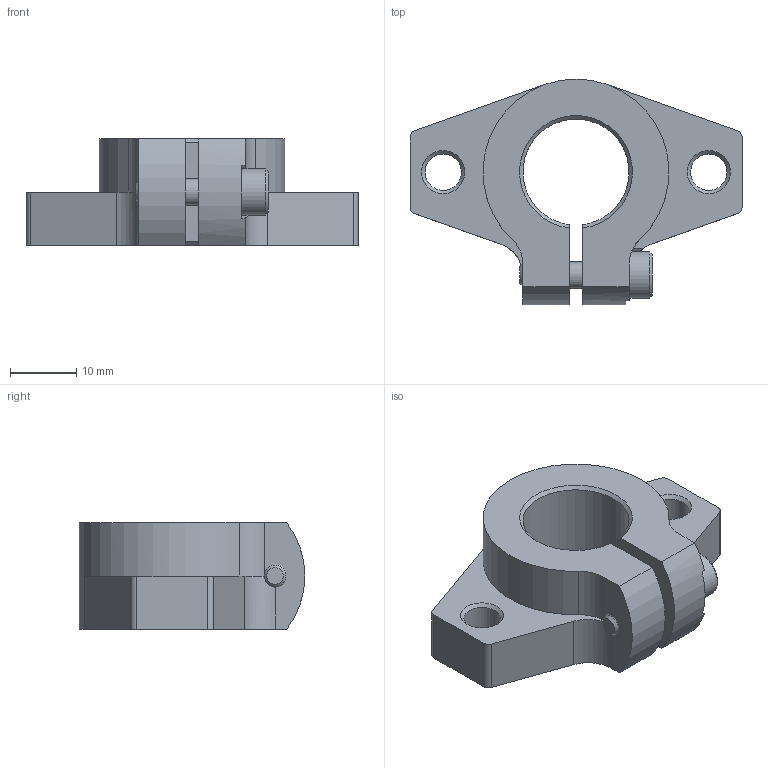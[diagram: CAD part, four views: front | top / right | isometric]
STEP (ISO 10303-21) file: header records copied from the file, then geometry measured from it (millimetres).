
FILE_DESCRIPTION(('STEP AP214'), '1');
FILE_NAME('SHF16 - Äåðæàòåëü âàëà', '', ('UNSPECIFIED'), ('UNSPECIFIED'), 'ASCON STEP Converter 1.3', 'ASCON Math Kernel', '');
FILE_SCHEMA(('AUTOMOTIVE_DESIGN { 1 0 10303 214 3 1 1}'));
Length unit declared in the file: millimetre
Products named in the file (3): SHF16
Assembly tree (2 placements, depth 2):
  SHF16
    SHF16
    (unnamed)
Bounding box: 50 x 34 x 16 mm (x, y, z)
Volume: 10933.9 mm3; surface area: 5460 mm2
Topology: 2 solids, 2 shells, 63 faces, 163 edges, 105 vertices
Faces by surface type: plane 33, cylinder 20, cone 10
Full cylindrical faces by diameter (mm): 3 x1, 3.242 x1, 4 x1, 4.5 x1, 5.5 x2, 7 x1
Entity records: 2831 total; most frequent: CARTESIAN_POINT 654, DIRECTION 325, ORIENTED_EDGE 294, EDGE_CURVE 147, AXIS2_PLACEMENT_3D 126, VERTEX_POINT 103, EDGE_LOOP 86, LINE 73
